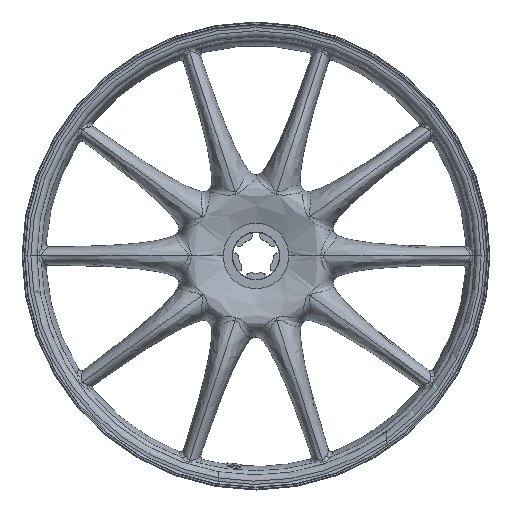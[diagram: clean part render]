
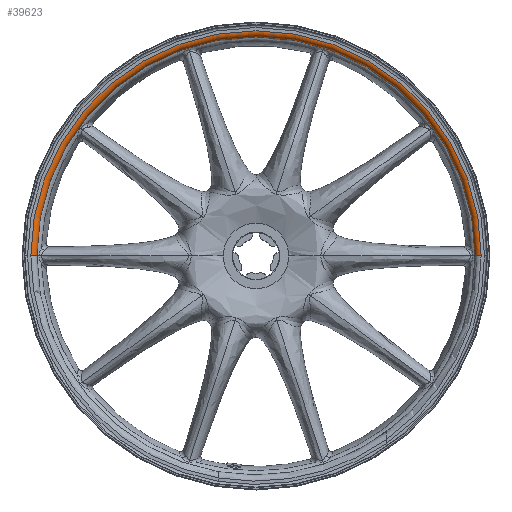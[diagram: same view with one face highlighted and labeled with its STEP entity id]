
A CAD part, top view. The second image highlights one B-rep face of the part: STEP entity #39623.
In plain terms, the highlighted toroidal (fillet/blend) face has major radius 204.5 mm and minor radius 5.5 mm.
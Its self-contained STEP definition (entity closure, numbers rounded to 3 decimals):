
#15635 = EDGE_CURVE ( 'NONE', #54041, #36876, #101952, .T. ) ;
#15698 = CARTESIAN_POINT ( 'NONE',  ( -204.5, 0., 21.5 ) ) ;
#22986 = DIRECTION ( 'NONE',  ( -1., 0., 0. ) ) ;
#26668 = CIRCLE ( 'NONE', #36088, 5.5 ) ;
#28073 = ORIENTED_EDGE ( 'NONE', *, *, #188961, .F. ) ;
#36088 = AXIS2_PLACEMENT_3D ( 'NONE', #97900, #173665, #22986 ) ;
#36876 = VERTEX_POINT ( 'NONE', #15698 ) ;
#39254 = DIRECTION ( 'NONE',  ( 0., 0., 1. ) ) ;
#39623 = ADVANCED_FACE ( 'NONE', ( #81751 ), #164162, .T. ) ;
#52929 = ORIENTED_EDGE ( 'NONE', *, *, #125522, .T. ) ;
#54041 = VERTEX_POINT ( 'NONE', #153453 ) ;
#63859 = DIRECTION ( 'NONE',  ( 0., -1., 0. ) ) ;
#74662 = CARTESIAN_POINT ( 'NONE',  ( 204.5, 0., 16. ) ) ;
#78207 = CIRCLE ( 'NONE', #81265, 5.5 ) ;
#81265 = AXIS2_PLACEMENT_3D ( 'NONE', #74662, #63859, #134938 ) ;
#81751 = FACE_OUTER_BOUND ( 'NONE', #113735, .T. ) ;
#97900 = CARTESIAN_POINT ( 'NONE',  ( -204.5, 0., 16. ) ) ;
#98659 = DIRECTION ( 'NONE',  ( 1., 0., 0. ) ) ;
#100473 = AXIS2_PLACEMENT_3D ( 'NONE', #172513, #39254, #98659 ) ;
#101952 = CIRCLE ( 'NONE', #170234, 204.5 ) ;
#105178 = AXIS2_PLACEMENT_3D ( 'NONE', #156598, #127431, #123587 ) ;
#113735 = EDGE_LOOP ( 'NONE', ( #126113, #52929, #137574, #28073 ) ) ;
#119239 = VERTEX_POINT ( 'NONE', #192120 ) ;
#123587 = DIRECTION ( 'NONE',  ( 1., 0., 0. ) ) ;
#125522 = EDGE_CURVE ( 'NONE', #36876, #119239, #26668, .T. ) ;
#126113 = ORIENTED_EDGE ( 'NONE', *, *, #15635, .T. ) ;
#127431 = DIRECTION ( 'NONE',  ( 0., 0., 1. ) ) ;
#128382 = DIRECTION ( 'NONE',  ( 0., 0., 1. ) ) ;
#134631 = CIRCLE ( 'NONE', #100473, 199.003 ) ;
#134938 = DIRECTION ( 'NONE',  ( 0., 0., -1. ) ) ;
#137574 = ORIENTED_EDGE ( 'NONE', *, *, #153376, .F. ) ;
#142982 = CARTESIAN_POINT ( 'NONE',  ( 0., 0., 21.5 ) ) ;
#143935 = DIRECTION ( 'NONE',  ( 1., 0., 0. ) ) ;
#153376 = EDGE_CURVE ( 'NONE', #165858, #119239, #134631, .T. ) ;
#153453 = CARTESIAN_POINT ( 'NONE',  ( 204.5, 0., 21.5 ) ) ;
#156598 = CARTESIAN_POINT ( 'NONE',  ( 0., 0., 16. ) ) ;
#164162 = TOROIDAL_SURFACE ( 'NONE', #105178, 204.5, 5.5 ) ;
#165858 = VERTEX_POINT ( 'NONE', #186734 ) ;
#170234 = AXIS2_PLACEMENT_3D ( 'NONE', #142982, #128382, #143935 ) ;
#172513 = CARTESIAN_POINT ( 'NONE',  ( 0., 0., 16.192 ) ) ;
#173665 = DIRECTION ( 'NONE',  ( 0., 1., 0. ) ) ;
#186734 = CARTESIAN_POINT ( 'NONE',  ( 199.003, 0., 16.192 ) ) ;
#188961 = EDGE_CURVE ( 'NONE', #54041, #165858, #78207, .T. ) ;
#192120 = CARTESIAN_POINT ( 'NONE',  ( -199.003, 0., 16.192 ) ) ;
